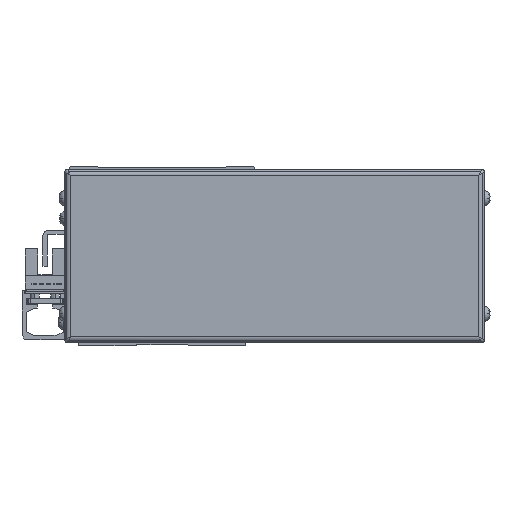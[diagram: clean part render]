
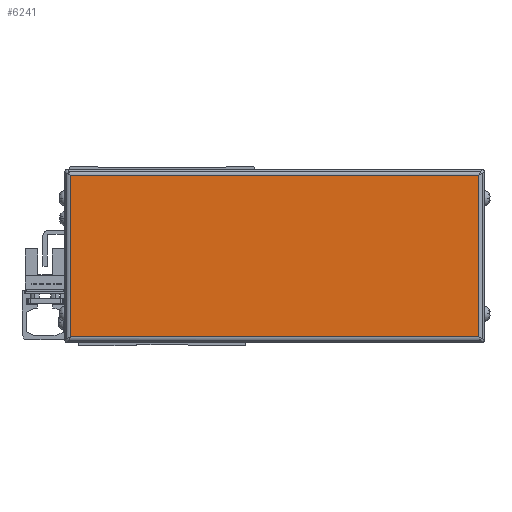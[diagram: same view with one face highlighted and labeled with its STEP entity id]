
A CAD part, front view. The second image highlights one B-rep face of the part: STEP entity #6241.
In plain terms, the highlighted planar face has unit normal (0, -1, 0).
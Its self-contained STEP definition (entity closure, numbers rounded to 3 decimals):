
#6241=ADVANCED_FACE('',(#12538),#12539,.T.);
#12538=FACE_OUTER_BOUND('',#20040,.T.);
#12539=PLANE('',#20041);
#20040=EDGE_LOOP('',(#37592,#37593,#37594,#37595));
#20041=AXIS2_PLACEMENT_3D('',#37596,#37597,#37598);
#37592=ORIENTED_EDGE('',*,*,#46011,.F.);
#37593=ORIENTED_EDGE('',*,*,#42744,.F.);
#37594=ORIENTED_EDGE('',*,*,#40439,.F.);
#37595=ORIENTED_EDGE('',*,*,#45200,.F.);
#37596=CARTESIAN_POINT('',(339.,181.,-4.));
#37597=DIRECTION('',(0.,-1.0,0.));
#37598=DIRECTION('',(0.,0.,1.0));
#40439=EDGE_CURVE('',#48448,#48450,#48451,.T.);
#42744=EDGE_CURVE('',#48450,#47684,#52204,.T.);
#45200=EDGE_CURVE('',#52483,#48448,#55641,.T.);
#46011=EDGE_CURVE('',#47684,#52483,#56656,.T.);
#47684=VERTEX_POINT('',#58753);
#48448=VERTEX_POINT('',#59882);
#48450=VERTEX_POINT('',#59884);
#48451=LINE('',#59885,#59886);
#52204=LINE('',#65164,#65165);
#52483=VERTEX_POINT('',#65560);
#55641=LINE('',#70350,#70351);
#56656=LINE('',#71801,#71802);
#58753=CARTESIAN_POINT('',(268.3,181.,24.));
#59882=CARTESIAN_POINT('',(409.7,181.,-32.));
#59884=CARTESIAN_POINT('',(268.3,181.,-32.));
#59885=CARTESIAN_POINT('',(339.,181.,-32.));
#59886=VECTOR('',#74148,10.0);
#65164=CARTESIAN_POINT('',(268.3,181.,-4.));
#65165=VECTOR('',#76885,10.0);
#65560=CARTESIAN_POINT('',(409.7,181.,24.));
#70350=CARTESIAN_POINT('',(409.7,181.,-4.));
#70351=VECTOR('',#79537,10.0);
#71801=CARTESIAN_POINT('',(339.,181.,24.));
#71802=VECTOR('',#80384,10.0);
#74148=DIRECTION('',(-1.0,0.,0.));
#76885=DIRECTION('',(0.,0.,1.0));
#79537=DIRECTION('',(0.,0.,-1.0));
#80384=DIRECTION('',(1.0,0.,0.));
